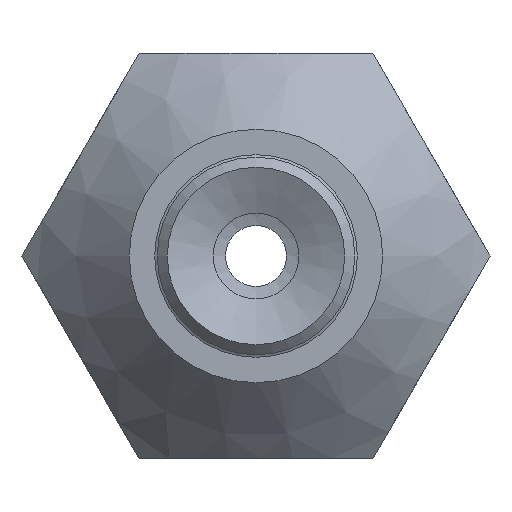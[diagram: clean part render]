
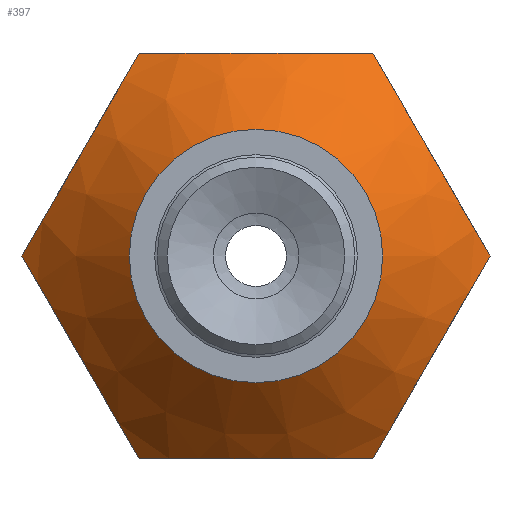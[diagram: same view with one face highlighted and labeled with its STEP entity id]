
A CAD part, front view. The second image highlights one B-rep face of the part: STEP entity #397.
In plain terms, the highlighted conical face has half-angle 45 degrees and reference radius 2.5 mm.
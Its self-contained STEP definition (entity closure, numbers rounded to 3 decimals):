
#397=ADVANCED_FACE('',(#486,#487),#488,.T.);
#486=FACE_BOUND('',#706,.T.);
#487=FACE_OUTER_BOUND('',#707,.T.);
#488=CONICAL_SURFACE('',#708,2.5,0.785);
#706=EDGE_LOOP('',(#959));
#707=EDGE_LOOP('',(#960,#961,#962,#963,#964,#965));
#708=AXIS2_PLACEMENT_3D('',#966,#967,#968);
#959=ORIENTED_EDGE('',*,*,#1505,.F.);
#960=ORIENTED_EDGE('',*,*,#1506,.F.);
#961=ORIENTED_EDGE('',*,*,#1507,.F.);
#962=ORIENTED_EDGE('',*,*,#1508,.F.);
#963=ORIENTED_EDGE('',*,*,#1509,.F.);
#964=ORIENTED_EDGE('',*,*,#1510,.F.);
#965=ORIENTED_EDGE('',*,*,#1511,.F.);
#966=CARTESIAN_POINT('',(0.0,0.,0.0));
#967=DIRECTION('',(-0.0,1.0,-0.0));
#968=DIRECTION('',(0.0,0.0,1.0));
#1505=EDGE_CURVE('',#1649,#1649,#1650,.T.);
#1506=EDGE_CURVE('',#1651,#1652,#1653,.T.);
#1507=EDGE_CURVE('',#1654,#1651,#1655,.T.);
#1508=EDGE_CURVE('',#1656,#1654,#1657,.T.);
#1509=EDGE_CURVE('',#1658,#1656,#1659,.T.);
#1510=EDGE_CURVE('',#1660,#1658,#1661,.T.);
#1511=EDGE_CURVE('',#1652,#1660,#1662,.T.);
#1649=VERTEX_POINT('',#1895);
#1650=CIRCLE('',#1896,2.5);
#1651=VERTEX_POINT('',#1897);
#1652=VERTEX_POINT('',#1898);
#1653=B_SPLINE_CURVE_WITH_KNOTS('',2,(#1899,#1900,#1901,#1902,#1903),.UNSPECIFIED.,.F.,.F.,(3,2,3),(0.0,0.5,1.0),.UNSPECIFIED.);
#1654=VERTEX_POINT('',#1904);
#1655=B_SPLINE_CURVE_WITH_KNOTS('',2,(#1905,#1906,#1907,#1908,#1909),.UNSPECIFIED.,.F.,.F.,(3,2,3),(0.0,0.5,1.0),.UNSPECIFIED.);
#1656=VERTEX_POINT('',#1910);
#1657=B_SPLINE_CURVE_WITH_KNOTS('',2,(#1911,#1912,#1913,#1914,#1915),.UNSPECIFIED.,.F.,.F.,(3,2,3),(0.0,0.5,1.0),.UNSPECIFIED.);
#1658=VERTEX_POINT('',#1916);
#1659=B_SPLINE_CURVE_WITH_KNOTS('',2,(#1917,#1918,#1919,#1920,#1921),.UNSPECIFIED.,.F.,.F.,(3,2,3),(0.0,0.5,1.0),.UNSPECIFIED.);
#1660=VERTEX_POINT('',#1922);
#1661=B_SPLINE_CURVE_WITH_KNOTS('',2,(#1923,#1924,#1925,#1926,#1927),.UNSPECIFIED.,.F.,.F.,(3,2,3),(0.0,0.5,1.0),.UNSPECIFIED.);
#1662=B_SPLINE_CURVE_WITH_KNOTS('',2,(#1928,#1929,#1930,#1931,#1932),.UNSPECIFIED.,.F.,.F.,(3,2,3),(0.0,0.5,1.0),.UNSPECIFIED.);
#1895=CARTESIAN_POINT('',(0.0,0.,-2.5));
#1896=AXIS2_PLACEMENT_3D('',#2441,#2442,#2443);
#1897=CARTESIAN_POINT('',(4.619,2.119,0.));
#1898=CARTESIAN_POINT('',(2.309,2.119,-4.0));
#1899=CARTESIAN_POINT('',(4.619,2.119,0.));
#1900=CARTESIAN_POINT('',(4.002,1.502,-1.068));
#1901=CARTESIAN_POINT('',(3.468,1.5,-1.993));
#1902=CARTESIAN_POINT('',(2.93,1.498,-2.924));
#1903=CARTESIAN_POINT('',(2.309,2.119,-4.));
#1904=CARTESIAN_POINT('',(2.309,2.119,4.0));
#1905=CARTESIAN_POINT('',(2.309,2.119,4.0));
#1906=CARTESIAN_POINT('',(2.926,1.502,2.932));
#1907=CARTESIAN_POINT('',(3.46,1.5,2.007));
#1908=CARTESIAN_POINT('',(3.998,1.498,1.076));
#1909=CARTESIAN_POINT('',(4.619,2.119,0.));
#1910=CARTESIAN_POINT('',(-2.309,2.119,4.0));
#1911=CARTESIAN_POINT('',(-2.309,2.119,4.0));
#1912=CARTESIAN_POINT('',(-1.073,1.5,4.0));
#1913=CARTESIAN_POINT('',(-0.001,1.5,4.0));
#1914=CARTESIAN_POINT('',(1.071,1.5,4.0));
#1915=CARTESIAN_POINT('',(2.309,2.119,4.0));
#1916=CARTESIAN_POINT('',(-4.619,2.119,0.));
#1917=CARTESIAN_POINT('',(-4.619,2.119,0.));
#1918=CARTESIAN_POINT('',(-4.002,1.502,1.068));
#1919=CARTESIAN_POINT('',(-3.468,1.5,1.993));
#1920=CARTESIAN_POINT('',(-2.93,1.498,2.924));
#1921=CARTESIAN_POINT('',(-2.309,2.119,4.));
#1922=CARTESIAN_POINT('',(-2.309,2.119,-4.0));
#1923=CARTESIAN_POINT('',(-2.309,2.119,-4.0));
#1924=CARTESIAN_POINT('',(-2.926,1.502,-2.932));
#1925=CARTESIAN_POINT('',(-3.46,1.5,-2.007));
#1926=CARTESIAN_POINT('',(-3.998,1.498,-1.076));
#1927=CARTESIAN_POINT('',(-4.619,2.119,0.));
#1928=CARTESIAN_POINT('',(2.309,2.119,-4.0));
#1929=CARTESIAN_POINT('',(1.073,1.5,-4.0));
#1930=CARTESIAN_POINT('',(0.001,1.5,-4.0));
#1931=CARTESIAN_POINT('',(-1.071,1.5,-4.0));
#1932=CARTESIAN_POINT('',(-2.309,2.119,-4.0));
#2441=CARTESIAN_POINT('',(0.0,0.,0.0));
#2442=DIRECTION('',(0.0,-1.0,0.0));
#2443=DIRECTION('',(0.0,0.0,-1.0));
